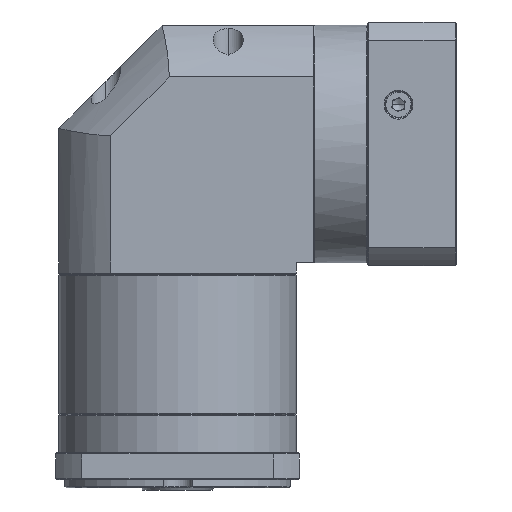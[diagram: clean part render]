
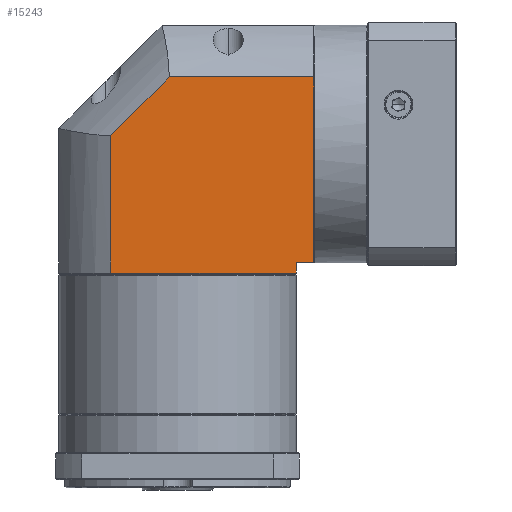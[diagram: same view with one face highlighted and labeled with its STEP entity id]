
A CAD part, front view. The second image highlights one B-rep face of the part: STEP entity #15243.
In plain terms, the highlighted planar face has unit normal (0, -1, 0).
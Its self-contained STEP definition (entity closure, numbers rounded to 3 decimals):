
#490 = ORIENTED_EDGE ( 'NONE', *, *, #43130, .F. ) ;
#768 = ORIENTED_EDGE ( 'NONE', *, *, #112445, .F. ) ;
#833 = LINE ( 'NONE', #99047, #13166 ) ;
#3205 = VECTOR ( 'NONE', #25710, 1000. ) ;
#5337 = DIRECTION ( 'NONE',  ( -1., 0., 0. ) ) ;
#6436 = EDGE_CURVE ( 'NONE', #24229, #107001, #39784, .T. ) ;
#9619 = VECTOR ( 'NONE', #118578, 1000. ) ;
#13166 = VECTOR ( 'NONE', #19306, 1000. ) ;
#13825 = DIRECTION ( 'NONE',  ( 1., 0., 0. ) ) ;
#15243 = ADVANCED_FACE ( 'NONE', ( #84492 ), #63180, .F. ) ;
#18073 = AXIS2_PLACEMENT_3D ( 'NONE', #26025, #84502, #103968 ) ;
#19306 = DIRECTION ( 'NONE',  ( 0., 0., 1. ) ) ;
#22914 = ORIENTED_EDGE ( 'NONE', *, *, #89399, .F. ) ;
#24229 = VERTEX_POINT ( 'NONE', #54536 ) ;
#25710 = DIRECTION ( 'NONE',  ( -1., 0., 0. ) ) ;
#26025 = CARTESIAN_POINT ( 'NONE',  ( -17.638, -0.18, -66.35 ) ) ;
#28349 = VERTEX_POINT ( 'NONE', #93630 ) ;
#29588 = VERTEX_POINT ( 'NONE', #81134 ) ;
#29618 = LINE ( 'NONE', #74598, #3205 ) ;
#35364 = LINE ( 'NONE', #52850, #58531 ) ;
#39207 = VECTOR ( 'NONE', #5337, 1000. ) ;
#39784 = LINE ( 'NONE', #66469, #69176 ) ;
#41041 = VERTEX_POINT ( 'NONE', #83013 ) ;
#41611 = CARTESIAN_POINT ( 'NONE',  ( 97.362, -0.18, -59.85 ) ) ;
#43112 = LINE ( 'NONE', #56120, #114543 ) ;
#43130 = EDGE_CURVE ( 'NONE', #29588, #60445, #35364, .T. ) ;
#45416 = LINE ( 'NONE', #75009, #39207 ) ;
#52850 = CARTESIAN_POINT ( 'NONE',  ( -17.638, -0.18, 35.05 ) ) ;
#54536 = CARTESIAN_POINT ( 'NONE',  ( 97.362, -0.18, -54.85 ) ) ;
#56120 = CARTESIAN_POINT ( 'NONE',  ( 105.762, -0.18, -66.35 ) ) ;
#56452 = VERTEX_POINT ( 'NONE', #124696 ) ;
#57250 = ORIENTED_EDGE ( 'NONE', *, *, #119078, .F. ) ;
#58531 = VECTOR ( 'NONE', #13825, 1000. ) ;
#60445 = VERTEX_POINT ( 'NONE', #119948 ) ;
#61108 = EDGE_CURVE ( 'NONE', #107001, #56452, #29618, .T. ) ;
#63180 = PLANE ( 'NONE',  #18073 ) ;
#66469 = CARTESIAN_POINT ( 'NONE',  ( 97.362, -0.18, -66.35 ) ) ;
#66907 = DIRECTION ( 'NONE',  ( 0., 0., -1. ) ) ;
#67655 = ORIENTED_EDGE ( 'NONE', *, *, #61108, .F. ) ;
#69176 = VECTOR ( 'NONE', #115555, 1000. ) ;
#71900 = EDGE_CURVE ( 'NONE', #41041, #29588, #113435, .T. ) ;
#74598 = CARTESIAN_POINT ( 'NONE',  ( -17.638, -0.18, -59.85 ) ) ;
#75009 = CARTESIAN_POINT ( 'NONE',  ( -17.638, -0.18, -54.85 ) ) ;
#80239 = EDGE_LOOP ( 'NONE', ( #106066, #57250, #22914, #490, #125932, #768, #67655 ) ) ;
#81134 = CARTESIAN_POINT ( 'NONE',  ( 35.8, -0.18, 35.05 ) ) ;
#83013 = CARTESIAN_POINT ( 'NONE',  ( 7.462, -0.18, 6.711 ) ) ;
#84492 = FACE_OUTER_BOUND ( 'NONE', #80239, .T. ) ;
#84502 = DIRECTION ( 'NONE',  ( 0., 1., 0. ) ) ;
#89399 = EDGE_CURVE ( 'NONE', #60445, #28349, #43112, .T. ) ;
#93630 = CARTESIAN_POINT ( 'NONE',  ( 105.762, -0.18, -54.85 ) ) ;
#99047 = CARTESIAN_POINT ( 'NONE',  ( 7.462, -0.18, -66.35 ) ) ;
#103968 = DIRECTION ( 'NONE',  ( 1., 0., 0. ) ) ;
#106066 = ORIENTED_EDGE ( 'NONE', *, *, #6436, .F. ) ;
#107001 = VERTEX_POINT ( 'NONE', #41611 ) ;
#108159 = CARTESIAN_POINT ( 'NONE',  ( 7.462, -0.18, 6.711 ) ) ;
#112445 = EDGE_CURVE ( 'NONE', #56452, #41041, #833, .T. ) ;
#113435 = LINE ( 'NONE', #108159, #9619 ) ;
#114543 = VECTOR ( 'NONE', #66907, 1000. ) ;
#115555 = DIRECTION ( 'NONE',  ( 0., 0., -1. ) ) ;
#118578 = DIRECTION ( 'NONE',  ( 0.707, 0., 0.707 ) ) ;
#119078 = EDGE_CURVE ( 'NONE', #28349, #24229, #45416, .T. ) ;
#119948 = CARTESIAN_POINT ( 'NONE',  ( 105.762, -0.18, 35.05 ) ) ;
#124696 = CARTESIAN_POINT ( 'NONE',  ( 7.462, -0.18, -59.85 ) ) ;
#125932 = ORIENTED_EDGE ( 'NONE', *, *, #71900, .F. ) ;
